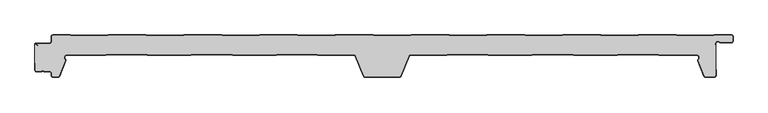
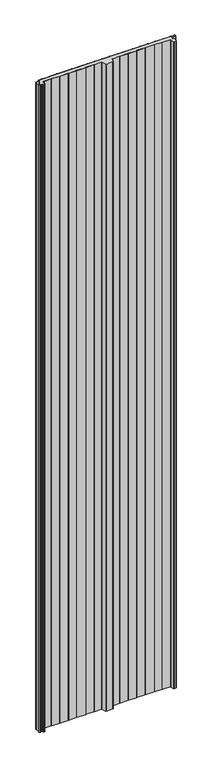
"""IFC4 building model written with IfcOpenShell, lengths in millimetres: plate geometry, ACH_Panel-Cubierta-3-Grecas-P3G : ACH_P3G_3-Rib-Roof-Panel_30M."""

from ifc_helpers import new_model, si_unit, point, frame_2d, origin, origin_with_axes, place, context, project, spatial, polyline, circle_curve, trimmed, segment, composite_curve, outline, extrude, source, transform, mapped, element, save


def plate_2ee592ca(model_context):
    return source(origin(), model_context, "Body", "SweptSolid", [
        extrude(outline(composite_curve([segment(polyline([(-499.496875, -13.8660254), (-495.496875, -16.1754265), (-495.096875, -15.4826062), (-498.1272598, -13.7330127)]), True, "CONTINUOUS"), segment(trimmed(circle_curve(frame_2d((-497.8772598, -13.3)), 0.5), [point((-498.1272598, -13.7330127))], [point((-497.8772598, -12.8))], False, "CARTESIAN"), True, "CONTINUOUS"), segment(polyline([(-497.8772598, -12.8), (-477.996875, -12.8)]), True, "CONTINUOUS"), segment(trimmed(circle_curve(frame_2d((-477.996875, -10.0)), 2.8), [point((-477.996875, -12.8))], [point((-475.196875, -10.0))], True, "CARTESIAN"), True, "CONTINUOUS"), segment(polyline([(-475.196875, -10.0), (-475.196875, -2.5)]), True, "CONTINUOUS"), segment(trimmed(circle_curve(frame_2d((-473.496875, -2.5)), 1.7), [point((-475.196875, -2.5))], [point((-473.496875, -0.8))], False, "CARTESIAN"), True, "CONTINUOUS"), segment(polyline([(-473.496875, -0.8), (-448.4313592, -0.8), (-447.4338592, -1.4), (-393.4298908, -1.4), (-392.4323908, -0.8), (-337.3213592, -0.8), (-336.3238592, -1.4), (-282.3198908, -1.4), (-281.3223908, -0.8), (-226.2113592, -0.8), (-225.2138592, -1.4), (-171.2098908, -1.4), (-170.2123908, -0.8), (-115.1013592, -0.8), (-114.1038592, -1.4), (-60.0998908, -1.4), (-59.1023908, -0.8), (-3.9913592, -0.8), (-2.9938592, -1.4), (51.0101092, -1.4), (52.0076092, -0.8), (107.1186408, -0.8), (108.1161408, -1.4), (162.1201092, -1.4), (163.1176092, -0.8), (218.2286408, -0.8), (219.2261408, -1.4), (273.2301092, -1.4), (274.2276092, -0.8), (329.3386408, -0.8), (330.3361408, -1.4), (384.3401092, -1.4), (385.3376092, -0.8), (440.4486408, -0.8), (441.4461408, -1.4), (495.4501092, -1.4), (496.4476092, -0.8), (521.503125, -0.8)]), True, "CONTINUOUS"), segment(trimmed(circle_curve(frame_2d((521.503125, -2.5)), 1.7), [point((521.503125, -0.8))], [point((523.203125, -2.5))], False, "CARTESIAN"), True, "CONTINUOUS"), segment(polyline([(523.203125, -2.5), (523.203125, -9.0)]), True, "CONTINUOUS"), segment(trimmed(circle_curve(frame_2d((521.503125, -9.0)), 1.7), [point((523.203125, -9.0))], [point((521.503125, -10.7))], False, "CARTESIAN"), True, "CONTINUOUS"), segment(polyline([(521.503125, -10.7), (505.8568186, -10.7)]), True, "CONTINUOUS"), segment(trimmed(circle_curve(frame_2d((505.8568186, -9.0)), 1.7), [point((505.8568186, -10.7))], [point((504.7323743, -10.275))], False, "CARTESIAN"), True, "CONTINUOUS"), segment(trimmed(circle_curve(frame_2d((501.8881916, -13.5)), 4.3), [point((504.7323743, -10.275))], [point((497.8475134, -12.0293134))], True, "CARTESIAN"), True, "CONTINUOUS"), segment(polyline([(497.8475134, -12.0293134), (497.1006025, -14.0814342)]), True, "CONTINUOUS"), segment(trimmed(circle_curve(frame_2d((495.503125, -13.5)), 1.7), [point((497.1006025, -14.0814342))], [point((495.503125, -15.2))], False, "CARTESIAN"), True, "CONTINUOUS"), segment(polyline([(495.503125, -15.2), (490.503125, -15.2), (490.503125, -16.0), (495.503125, -16.0)]), True, "CONTINUOUS"), segment(trimmed(circle_curve(frame_2d((495.503125, -13.5)), 2.5), [point((495.503125, -16.0))], [point((497.8523566, -14.3550504))], True, "CARTESIAN"), True, "CONTINUOUS"), segment(polyline([(497.8523566, -14.3550504), (498.203125, -13.391322), (498.203125, -59.5)]), True, "CONTINUOUS"), segment(trimmed(circle_curve(frame_2d((496.503125, -59.5)), 1.7), [point((498.203125, -59.5))], [point((496.503125, -61.2))], False, "CARTESIAN"), True, "CONTINUOUS"), segment(polyline([(496.503125, -61.2), (483.6093963, -61.2)]), True, "CONTINUOUS"), segment(trimmed(circle_curve(frame_2d((483.6093963, -59.5)), 1.7), [point((483.6093963, -61.2))], [point((482.0331837, -60.1368312))], False, "CARTESIAN"), True, "CONTINUOUS"), segment(polyline([(482.0331837, -60.1368312), (473.0241766, -37.838756)]), True, "CONTINUOUS"), segment(trimmed(circle_curve(frame_2d((474.6003891, -37.2019248)), 1.7), [point((473.0241766, -37.838756))], [point((473.4430606, -35.9566976))], False, "CARTESIAN"), True, "CONTINUOUS"), segment(trimmed(circle_curve(frame_2d((470.7880129, -33.1)), 3.9), [point((473.4430606, -35.9566976))], [point((470.7880129, -29.2))], True, "CARTESIAN"), True, "CONTINUOUS"), segment(polyline([(470.7880129, -29.2), (415.2251881, -29.2), (414.2276881, -28.6), (354.7785619, -28.6), (353.7810619, -29.2), (290.2252392, -29.2), (289.2266715, -28.6), (229.7795785, -28.6), (228.7810108, -29.2), (165.225925, -29.2), (164.2273573, -28.6), (104.7788927, -28.6), (103.780325, -29.2), (50.7367047, -29.2)]), True, "CONTINUOUS"), segment(trimmed(circle_curve(frame_2d((50.7367047, -32.0)), 2.8), [point((50.7367047, -29.2))], [point((48.1405899, -30.9511015))], True, "CARTESIAN"), True, "CONTINUOUS"), segment(polyline([(48.1405899, -30.9511015), (36.4751274, -59.8241345)]), True, "CONTINUOUS"), segment(trimmed(circle_curve(frame_2d((34.4353229, -59.0)), 2.2), [point((36.4751274, -59.8241345))], [point((34.4353229, -61.2))], False, "CARTESIAN"), True, "CONTINUOUS"), segment(polyline([(34.4353229, -61.2), (-15.5090729, -61.2)]), True, "CONTINUOUS"), segment(trimmed(circle_curve(frame_2d((-15.5090729, -59.0)), 2.2), [point((-15.5090729, -61.2))], [point((-17.5488774, -59.8241345))], False, "CARTESIAN"), True, "CONTINUOUS"), segment(polyline([(-17.5488774, -59.8241345), (-29.2143399, -30.9511015)]), True, "CONTINUOUS"), segment(trimmed(circle_curve(frame_2d((-31.8104547, -32.0)), 2.8), [point((-29.2143399, -30.9511015))], [point((-31.8104547, -29.2))], True, "CARTESIAN"), True, "CONTINUOUS"), segment(polyline([(-31.8104547, -29.2), (-84.8548119, -29.2), (-85.8523119, -28.6), (-145.3014381, -28.6), (-146.2989381, -29.2), (-209.8548119, -29.2), (-210.8523119, -28.6), (-270.3014381, -28.6), (-271.2989381, -29.2), (-334.8548119, -29.2), (-335.8523119, -28.6), (-395.3011073, -28.6), (-396.299675, -29.2), (-453.2387629, -29.2)]), True, "CONTINUOUS"), segment(trimmed(circle_curve(frame_2d((-453.2387629, -33.1)), 3.9), [point((-453.2387629, -29.2))], [point((-455.8938106, -35.9566976))], True, "CARTESIAN"), True, "CONTINUOUS"), segment(trimmed(circle_curve(frame_2d((-457.0511391, -37.2019248)), 1.7), [point((-455.8938106, -35.9566976))], [point((-455.4749266, -37.838756))], False, "CARTESIAN"), True, "CONTINUOUS"), segment(polyline([(-455.4749266, -37.838756), (-464.4839337, -60.1368312)]), True, "CONTINUOUS"), segment(trimmed(circle_curve(frame_2d((-466.0601463, -59.5)), 1.7), [point((-464.4839337, -60.1368312))], [point((-466.0601463, -61.2))], False, "CARTESIAN"), True, "CONTINUOUS"), segment(polyline([(-466.0601463, -61.2), (-473.496875, -61.2)]), True, "CONTINUOUS"), segment(trimmed(circle_curve(frame_2d((-473.496875, -59.5)), 1.7), [point((-473.496875, -61.2))], [point((-475.196875, -59.5))], False, "CARTESIAN"), True, "CONTINUOUS"), segment(polyline([(-475.196875, -59.5), (-475.196875, -56.0)]), True, "CONTINUOUS"), segment(trimmed(circle_curve(frame_2d((-477.996875, -56.0)), 2.8), [point((-475.196875, -56.0))], [point((-477.996875, -53.2))], True, "CARTESIAN"), True, "CONTINUOUS"), segment(polyline([(-477.996875, -53.2), (-486.5995084, -53.2)]), True, "CONTINUOUS"), segment(trimmed(circle_curve(frame_2d((-488.496875, -54.5)), 2.3), [point((-486.5995084, -53.2))], [point((-490.3942416, -53.2))], True, "CARTESIAN"), True, "CONTINUOUS"), segment(polyline([(-490.3942416, -53.2), (-497.496875, -53.2)]), True, "CONTINUOUS"), segment(trimmed(circle_curve(frame_2d((-497.496875, -51.5)), 1.7), [point((-497.496875, -53.2))], [point((-499.196875, -51.5))], False, "CARTESIAN"), True, "CONTINUOUS"), segment(polyline([(-499.196875, -51.5), (-499.196875, -41.18), (-499.996875, -41.18), (-499.996875, -13.0)]), True, "CONTINUOUS"), segment(trimmed(circle_curve(frame_2d((-498.996875, -13.0)), 1.0), [point((-499.996875, -13.0))], [point((-499.496875, -13.8660254))], True, "CARTESIAN"), True, "CONTINUOUS")], self_intersect=False)), origin_with_axes(), (0.0, 0.0, 1.0), 5000.0),
        extrude(outline(composite_curve([segment(trimmed(circle_curve(frame_2d((-478.0, -10.0)), 2.0), [point((-478.0, -12.0))], [point((-476.0, -10.0))], True, "CARTESIAN"), True, "CONTINUOUS"), segment(polyline([(-476.0, -10.0), (-476.0, -2.5)]), True, "CONTINUOUS"), segment(trimmed(circle_curve(frame_2d((-473.5, -2.5)), 2.5), [point((-476.0, -2.5))], [point((-473.5, 0.0))], False, "CARTESIAN"), True, "CONTINUOUS"), segment(polyline([(-473.5, 0.0), (-448.2124211, 0.0), (-447.2149211, -0.6), (-393.6550789, -0.6), (-392.6575789, 0.0), (-337.1024211, 0.0), (-336.1049211, -0.6), (-282.5450789, -0.6), (-281.5475789, 0.0), (-225.9924211, 0.0), (-224.9949211, -0.6), (-171.4350789, -0.6), (-170.4375789, 0.0), (-114.8824211, 0.0), (-113.8849211, -0.6), (-60.3250789, -0.6), (-59.3275789, 0.0), (-3.7724211, 0.0), (-2.7749211, -0.6), (50.7849211, -0.6), (51.7824211, 0.0), (107.3375789, 0.0), (108.3350789, -0.6), (161.8949211, -0.6), (162.8924211, 0.0), (218.4475789, 0.0), (219.4450789, -0.6), (273.0049211, -0.6), (274.0024211, 0.0), (329.5575789, 0.0), (330.5550789, -0.6), (384.1149211, -0.6), (385.1124211, 0.0), (440.6675789, 0.0), (441.6650789, -0.6), (495.2249211, -0.6), (496.2224211, 0.0), (521.5, 0.0)]), True, "CONTINUOUS"), segment(trimmed(circle_curve(frame_2d((521.5, -2.5)), 2.5), [point((521.5, 0.0))], [point((524.0, -2.5))], False, "CARTESIAN"), True, "CONTINUOUS"), segment(polyline([(524.0, -2.5), (524.0, -9.0)]), True, "CONTINUOUS"), segment(trimmed(circle_curve(frame_2d((521.5, -9.0)), 2.5), [point((524.0, -9.0))], [point((521.5, -11.5))], False, "CARTESIAN"), True, "CONTINUOUS"), segment(polyline([(521.5, -11.5), (505.8536936, -11.5)]), True, "CONTINUOUS"), segment(trimmed(circle_curve(frame_2d((505.8536936, -9.0)), 2.5), [point((505.8536936, -11.5))], [point((504.200099, -10.875))], False, "CARTESIAN"), True, "CONTINUOUS"), segment(trimmed(circle_curve(frame_2d((501.8850666, -13.5)), 3.5), [point((504.200099, -10.875))], [point((498.5961425, -12.3029295))], True, "CARTESIAN"), True, "CONTINUOUS"), segment(polyline([(498.5961425, -12.3029295), (497.8492316, -14.3550504)]), True, "CONTINUOUS"), segment(trimmed(circle_curve(frame_2d((495.5, -13.5)), 2.5), [point((497.8492316, -14.3550504))], [point((495.5, -16.0))], False, "CARTESIAN"), True, "CONTINUOUS"), segment(polyline([(495.5, -16.0), (490.5, -16.0), (490.5, -15.2), (495.5, -15.2)]), True, "CONTINUOUS"), segment(trimmed(circle_curve(frame_2d((495.5, -13.5)), 1.7), [point((495.5, -15.2))], [point((497.0974775, -14.0814342))], True, "CARTESIAN"), True, "CONTINUOUS"), segment(polyline([(497.0974775, -14.0814342), (497.8443884, -12.0293134)]), True, "CONTINUOUS"), segment(trimmed(circle_curve(frame_2d((501.8850666, -13.5)), 4.3), [point((497.8443884, -12.0293134))], [point((504.7292493, -10.275))], False, "CARTESIAN"), True, "CONTINUOUS"), segment(trimmed(circle_curve(frame_2d((505.8536936, -9.0)), 1.7), [point((504.7292493, -10.275))], [point((505.8536936, -10.7))], True, "CARTESIAN"), True, "CONTINUOUS"), segment(polyline([(505.8536936, -10.7), (521.5, -10.7)]), True, "CONTINUOUS"), segment(trimmed(circle_curve(frame_2d((521.5, -9.0)), 1.7), [point((521.5, -10.7))], [point((523.2, -9.0))], True, "CARTESIAN"), True, "CONTINUOUS"), segment(polyline([(523.2, -9.0), (523.2, -2.5)]), True, "CONTINUOUS"), segment(trimmed(circle_curve(frame_2d((521.5, -2.5)), 1.7), [point((523.2, -2.5))], [point((521.5, -0.8))], True, "CARTESIAN"), True, "CONTINUOUS"), segment(polyline([(521.5, -0.8), (496.4444842, -0.8), (495.4469842, -1.4), (441.4430158, -1.4), (440.4455158, -0.8), (385.3344842, -0.8), (384.3369842, -1.4), (330.3330158, -1.4), (329.3355158, -0.8), (274.2244842, -0.8), (273.2269842, -1.4), (219.2230158, -1.4), (218.2255158, -0.8), (163.1144842, -0.8), (162.1169842, -1.4), (108.1130158, -1.4), (107.1155158, -0.8), (52.0044842, -0.8), (51.0069842, -1.4), (-2.9969842, -1.4), (-3.9944842, -0.8), (-59.1055158, -0.8), (-60.1030158, -1.4), (-114.1069842, -1.4), (-115.1044842, -0.8), (-170.2155158, -0.8), (-171.2130158, -1.4), (-225.2169842, -1.4), (-226.2144842, -0.8), (-281.3255158, -0.8), (-282.3230158, -1.4), (-336.3269842, -1.4), (-337.3244842, -0.8), (-392.4355158, -0.8), (-393.4330158, -1.4), (-447.4369842, -1.4), (-448.4344842, -0.8), (-473.5, -0.8)]), True, "CONTINUOUS"), segment(trimmed(circle_curve(frame_2d((-473.5, -2.5)), 1.7), [point((-473.5, -0.8))], [point((-475.2, -2.5))], True, "CARTESIAN"), True, "CONTINUOUS"), segment(polyline([(-475.2, -2.5), (-475.2, -10.0)]), True, "CONTINUOUS"), segment(trimmed(circle_curve(frame_2d((-478.0, -10.0)), 2.8), [point((-475.2, -10.0))], [point((-478.0, -12.8))], False, "CARTESIAN"), True, "CONTINUOUS"), segment(polyline([(-478.0, -12.8), (-497.8803848, -12.8)]), True, "CONTINUOUS"), segment(trimmed(circle_curve(frame_2d((-497.8803848, -13.3)), 0.5), [point((-497.8803848, -12.8))], [point((-498.1303848, -13.7330127))], True, "CARTESIAN"), True, "CONTINUOUS"), segment(polyline([(-498.1303848, -13.7330127), (-495.1, -15.4826062), (-495.5, -16.1754265), (-499.5, -13.8660254)]), True, "CONTINUOUS"), segment(trimmed(circle_curve(frame_2d((-499.0, -13.0)), 1.0), [point((-499.5, -13.8660254))], [point((-499.0, -12.0))], False, "CARTESIAN"), True, "CONTINUOUS"), segment(polyline([(-499.0, -12.0), (-478.0, -12.0)]), True, "CONTINUOUS")], self_intersect=False)), origin_with_axes(), (0.0, 0.0, 1.0), 5000.0),
        extrude(outline(composite_curve([segment(polyline([(-500.0, -51.5), (-500.0, -41.18), (-499.2, -41.18), (-499.2, -51.5)]), True, "CONTINUOUS"), segment(trimmed(circle_curve(frame_2d((-497.5, -51.5)), 1.7), [point((-499.2, -51.5))], [point((-497.5, -53.2))], True, "CARTESIAN"), True, "CONTINUOUS"), segment(polyline([(-497.5, -53.2), (-490.3973666, -53.2)]), True, "CONTINUOUS"), segment(trimmed(circle_curve(frame_2d((-488.5, -54.5)), 2.3), [point((-490.3973666, -53.2))], [point((-486.6026334, -53.2))], False, "CARTESIAN"), True, "CONTINUOUS"), segment(polyline([(-486.6026334, -53.2), (-478.0, -53.2)]), True, "CONTINUOUS"), segment(trimmed(circle_curve(frame_2d((-478.0, -56.0)), 2.8), [point((-478.0, -53.2))], [point((-475.2, -56.0))], False, "CARTESIAN"), True, "CONTINUOUS"), segment(polyline([(-475.2, -56.0), (-475.2, -59.5)]), True, "CONTINUOUS"), segment(trimmed(circle_curve(frame_2d((-473.5, -59.5)), 1.7), [point((-475.2, -59.5))], [point((-473.5, -61.2))], True, "CARTESIAN"), True, "CONTINUOUS"), segment(polyline([(-473.5, -61.2), (-466.0632713, -61.2)]), True, "CONTINUOUS"), segment(trimmed(circle_curve(frame_2d((-466.0632713, -59.5)), 1.7), [point((-466.0632713, -61.2))], [point((-464.4870587, -60.1368312))], True, "CARTESIAN"), True, "CONTINUOUS"), segment(polyline([(-464.4870587, -60.1368312), (-455.4780516, -37.838756)]), True, "CONTINUOUS"), segment(trimmed(circle_curve(frame_2d((-457.0542641, -37.2019248)), 1.7), [point((-455.4780516, -37.838756))], [point((-455.8969356, -35.9566976))], True, "CARTESIAN"), True, "CONTINUOUS"), segment(trimmed(circle_curve(frame_2d((-453.2418879, -33.1)), 3.9), [point((-455.8969356, -35.9566976))], [point((-453.2418879, -29.2))], False, "CARTESIAN"), True, "CONTINUOUS"), segment(polyline([(-453.2418879, -29.2), (-396.3028, -29.2), (-395.3042323, -28.6), (-335.8554369, -28.6), (-334.8579369, -29.2), (-271.3020631, -29.2), (-270.3045631, -28.6), (-210.8554369, -28.6), (-209.8579369, -29.2), (-146.3020631, -29.2), (-145.3045631, -28.6), (-85.8554369, -28.6), (-84.8579369, -29.2), (-31.8135797, -29.2)]), True, "CONTINUOUS"), segment(trimmed(circle_curve(frame_2d((-31.8135797, -32.0)), 2.8), [point((-31.8135797, -29.2))], [point((-29.2174649, -30.9511015))], False, "CARTESIAN"), True, "CONTINUOUS"), segment(polyline([(-29.2174649, -30.9511015), (-17.5520024, -59.8241345)]), True, "CONTINUOUS"), segment(trimmed(circle_curve(frame_2d((-15.5121979, -59.0)), 2.2), [point((-17.5520024, -59.8241345))], [point((-15.5121979, -61.2))], True, "CARTESIAN"), True, "CONTINUOUS"), segment(polyline([(-15.5121979, -61.2), (34.4321979, -61.2)]), True, "CONTINUOUS"), segment(trimmed(circle_curve(frame_2d((34.4321979, -59.0)), 2.2), [point((34.4321979, -61.2))], [point((36.4720024, -59.8241345))], True, "CARTESIAN"), True, "CONTINUOUS"), segment(polyline([(36.4720024, -59.8241345), (48.1374649, -30.9511015)]), True, "CONTINUOUS"), segment(trimmed(circle_curve(frame_2d((50.7335797, -32.0)), 2.8), [point((48.1374649, -30.9511015))], [point((50.7335797, -29.2))], False, "CARTESIAN"), True, "CONTINUOUS"), segment(polyline([(50.7335797, -29.2), (103.7772, -29.2), (104.7757677, -28.6), (164.2242323, -28.6), (165.2228, -29.2), (228.7778858, -29.2), (229.7764535, -28.6), (289.2235465, -28.6), (290.2221142, -29.2), (353.7779369, -29.2), (354.7754369, -28.6), (414.2245631, -28.6), (415.2220631, -29.2), (470.7848879, -29.2)]), True, "CONTINUOUS"), segment(trimmed(circle_curve(frame_2d((470.7848879, -33.1)), 3.9), [point((470.7848879, -29.2))], [point((473.4399356, -35.9566976))], False, "CARTESIAN"), True, "CONTINUOUS"), segment(trimmed(circle_curve(frame_2d((474.5972641, -37.2019248)), 1.7), [point((473.4399356, -35.9566976))], [point((473.0210516, -37.838756))], True, "CARTESIAN"), True, "CONTINUOUS"), segment(polyline([(473.0210516, -37.838756), (482.0300587, -60.1368312)]), True, "CONTINUOUS"), segment(trimmed(circle_curve(frame_2d((483.6062713, -59.5)), 1.7), [point((482.0300587, -60.1368312))], [point((483.6062713, -61.2))], True, "CARTESIAN"), True, "CONTINUOUS"), segment(polyline([(483.6062713, -61.2), (496.5, -61.2)]), True, "CONTINUOUS"), segment(trimmed(circle_curve(frame_2d((496.5, -59.5)), 1.7), [point((496.5, -61.2))], [point((498.2, -59.5))], True, "CARTESIAN"), True, "CONTINUOUS"), segment(polyline([(498.2, -59.5), (498.2, -51.0), (499.0, -51.0), (499.0, -59.5)]), True, "CONTINUOUS"), segment(trimmed(circle_curve(frame_2d((496.5, -59.5)), 2.5), [point((499.0, -59.5))], [point((496.5, -62.0))], False, "CARTESIAN"), True, "CONTINUOUS"), segment(polyline([(496.5, -62.0), (483.6062713, -62.0)]), True, "CONTINUOUS"), segment(trimmed(circle_curve(frame_2d((483.6062713, -59.5)), 2.5), [point((483.6062713, -62.0))], [point((481.2883117, -60.4365165))], False, "CARTESIAN"), True, "CONTINUOUS"), segment(polyline([(481.2883117, -60.4365165), (472.2793045, -38.1384413)]), True, "CONTINUOUS"), segment(trimmed(circle_curve(frame_2d((474.5972641, -37.2019248)), 2.5), [point((472.2793045, -38.1384413))], [point((472.8953104, -35.3707084))], False, "CARTESIAN"), True, "CONTINUOUS"), segment(trimmed(circle_curve(frame_2d((470.7848879, -33.1)), 3.1), [point((472.8953104, -35.3707084))], [point((470.7848879, -30.0))], True, "CARTESIAN"), True, "CONTINUOUS"), segment(polyline([(470.7848879, -30.0), (415.0, -30.0), (414.0025, -29.4), (354.9975, -29.4), (354.0, -30.0), (290.0002546, -30.0), (289.0016869, -29.4), (229.9983131, -29.4), (228.9997454, -30.0), (165.0009404, -30.0), (164.0023727, -29.4), (104.9976273, -29.4), (103.9990596, -30.0), (50.7335797, -30.0)]), True, "CONTINUOUS"), segment(trimmed(circle_curve(frame_2d((50.7335797, -32.0)), 2.0), [point((50.7335797, -30.0))], [point((48.879212, -31.2507868))], True, "CARTESIAN"), True, "CONTINUOUS"), segment(polyline([(48.879212, -31.2507868), (37.2137494, -60.1238198)]), True, "CONTINUOUS"), segment(trimmed(circle_curve(frame_2d((34.4321979, -59.0)), 3.0), [point((37.2137494, -60.1238198))], [point((34.4321979, -62.0))], False, "CARTESIAN"), True, "CONTINUOUS"), segment(polyline([(34.4321979, -62.0), (-15.5121979, -62.0)]), True, "CONTINUOUS"), segment(trimmed(circle_curve(frame_2d((-15.5121979, -59.0)), 3.0), [point((-15.5121979, -62.0))], [point((-18.2937494, -60.1238198))], False, "CARTESIAN"), True, "CONTINUOUS"), segment(polyline([(-18.2937494, -60.1238198), (-29.959212, -31.2507868)]), True, "CONTINUOUS"), segment(trimmed(circle_curve(frame_2d((-31.8135797, -32.0)), 2.0), [point((-29.959212, -31.2507868))], [point((-31.8135797, -30.0))], True, "CARTESIAN"), True, "CONTINUOUS"), segment(polyline([(-31.8135797, -30.0), (-85.08, -30.0), (-86.0775, -29.4), (-145.0825, -29.4), (-146.08, -30.0), (-210.08, -30.0), (-211.0775, -29.4), (-270.0825, -29.4), (-271.08, -30.0), (-335.08, -30.0), (-336.0775, -29.4), (-395.0823727, -29.4), (-396.0809404, -30.0), (-453.2418879, -30.0)]), True, "CONTINUOUS"), segment(trimmed(circle_curve(frame_2d((-453.2418879, -33.1)), 3.1), [point((-453.2418879, -30.0))], [point((-455.3523104, -35.3707084))], True, "CARTESIAN"), True, "CONTINUOUS"), segment(trimmed(circle_curve(frame_2d((-457.0542641, -37.2019248)), 2.5), [point((-455.3523104, -35.3707084))], [point((-454.7363045, -38.1384413))], False, "CARTESIAN"), True, "CONTINUOUS"), segment(polyline([(-454.7363045, -38.1384413), (-463.7453117, -60.4365165)]), True, "CONTINUOUS"), segment(trimmed(circle_curve(frame_2d((-466.0632713, -59.5)), 2.5), [point((-463.7453117, -60.4365165))], [point((-466.0632713, -62.0))], False, "CARTESIAN"), True, "CONTINUOUS"), segment(polyline([(-466.0632713, -62.0), (-473.5, -62.0)]), True, "CONTINUOUS"), segment(trimmed(circle_curve(frame_2d((-473.5, -59.5)), 2.5), [point((-473.5, -62.0))], [point((-476.0, -59.5))], False, "CARTESIAN"), True, "CONTINUOUS"), segment(polyline([(-476.0, -59.5), (-476.0, -56.0)]), True, "CONTINUOUS"), segment(trimmed(circle_curve(frame_2d((-478.0, -56.0)), 2.0), [point((-476.0, -56.0))], [point((-478.0, -54.0))], True, "CARTESIAN"), True, "CONTINUOUS"), segment(polyline([(-478.0, -54.0), (-486.263932, -54.0)]), True, "CONTINUOUS"), segment(trimmed(circle_curve(frame_2d((-486.263932, -52.5)), 1.5), [point((-486.263932, -54.0))], [point((-487.381966, -53.5))], False, "CARTESIAN"), True, "CONTINUOUS"), segment(trimmed(circle_curve(frame_2d((-488.5, -54.5)), 1.5), [point((-487.381966, -53.5))], [point((-489.618034, -53.5))], True, "CARTESIAN"), True, "CONTINUOUS"), segment(trimmed(circle_curve(frame_2d((-490.736068, -52.5)), 1.5), [point((-489.618034, -53.5))], [point((-490.736068, -54.0))], False, "CARTESIAN"), True, "CONTINUOUS"), segment(polyline([(-490.736068, -54.0), (-497.5, -54.0)]), True, "CONTINUOUS"), segment(trimmed(circle_curve(frame_2d((-497.5, -51.5)), 2.5), [point((-497.5, -54.0))], [point((-500.0, -51.5))], False, "CARTESIAN"), True, "CONTINUOUS")], self_intersect=False)), origin_with_axes(), (0.0, 0.0, 1.0), 5000.0),
    ])


if __name__ == "__main__":
    model = new_model("IFC4")
    model_context = context("Model", 3, world=origin())
    ifc_project = project(units=[si_unit("LENGTHUNIT", "METRE", prefix="MILLI")], contexts=[model_context])
    site = spatial("IfcSite", under=ifc_project)
    building = spatial("IfcBuilding", under=site)
    placement = place(None, origin())
    plate_shape = plate_2ee592ca(model_context)
    element("IfcPlate", 1, ObjectType="ACH_Panel-Cubierta-3-Grecas-P3G : ACH_P3G_3-Rib-Roof-Panel_30M", at=placement, inside=building, context=model_context, shape_type="MappedRepresentation", body=[
        mapped(plate_shape, transform((0.0, 0.0, 0.0), x_axis=(1.0, 0.0, 0.0), y_axis=(0.0, 1.0, 0.0), z_axis=(0.0, 0.0, 1.0))),
    ])
    save(model, "model.ifc")
